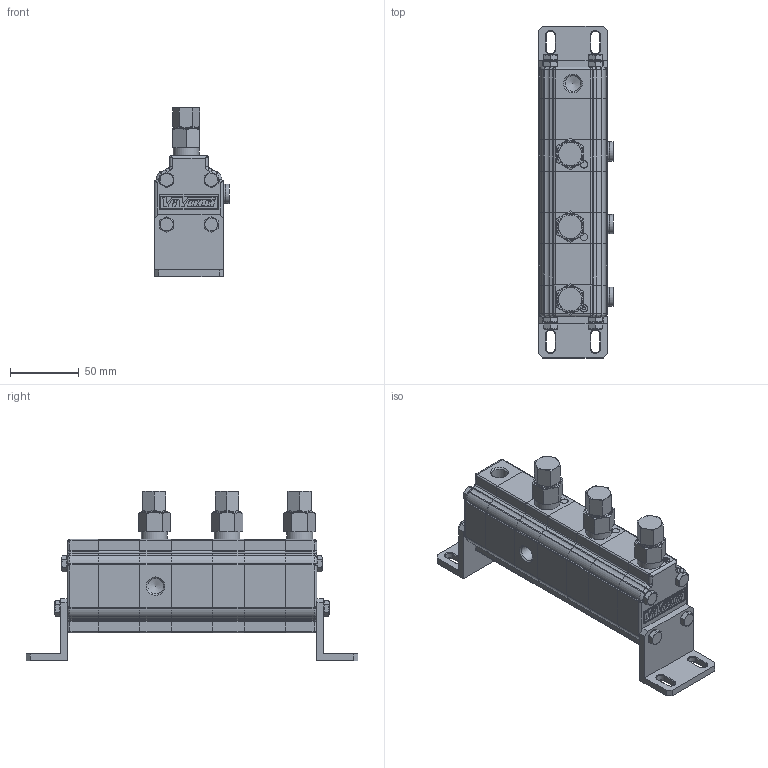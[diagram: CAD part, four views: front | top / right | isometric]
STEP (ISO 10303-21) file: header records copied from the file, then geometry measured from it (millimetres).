
FILE_DESCRIPTION(/* description */ ('Unknown'),/* implementation_level */ '2;1');
FILE_NAME(/* name */ '9RV03-02',/* time_stamp */ '2020-04-14T10:09:44+02:00',/* author */ ('Unknown'),/* organization */ ('Unknown'),/* preprocessor_version */ 'ST-DEVELOPER v16.7',/* originating_system */ 'DEX',/* authorisation */ $);
FILE_SCHEMA (('AUTOMOTIVE_DESIGN {1 0 10303 214 3 1 1}'));
Length unit declared in the file: millimetre
Products named in the file (1): RV-0V
Bounding box: 54.5 x 241.7 x 123.25 mm (x, y, z)
Volume: 573945.4 mm3; surface area: 73165.7 mm2
Topology: 1 solids, 7 shells, 1073 faces, 2735 edges, 1705 vertices
Faces by surface type: plane 487, cylinder 388, cone 118, bspline 48, torus 32
Full cylindrical faces by diameter (mm): 2 x1, 5 x1, 7 x3, 8.1 x3, 10 x11, 11.445 x12, 13.5 x3, 14 x6, 18.8 x3, 19 x3
Entity records: 43267 total; most frequent: CARTESIAN_POINT 10351, DIRECTION 5392, ORIENTED_EDGE 5170, EDGE_CURVE 2585, AXIS2_PLACEMENT_3D 2021, VERTEX_POINT 1668, LINE 1350, VECTOR 1350
